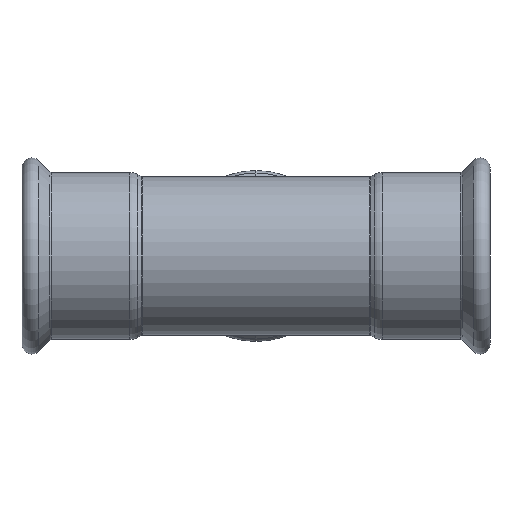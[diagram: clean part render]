
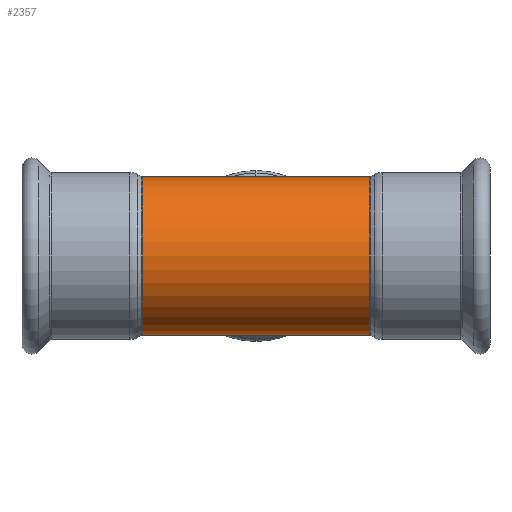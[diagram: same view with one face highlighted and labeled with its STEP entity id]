
A CAD part, front view. The second image highlights one B-rep face of the part: STEP entity #2357.
In plain terms, the highlighted cylindrical face has radius 43.95 mm (diameter 87.9 mm), a partial arc.
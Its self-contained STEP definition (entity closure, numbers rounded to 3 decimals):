
#8 = ORIENTED_EDGE ( 'NONE', *, *, #3311, .T. ) ;
#28 = ORIENTED_EDGE ( 'NONE', *, *, #3982, .F. ) ;
#76 = EDGE_CURVE ( 'NONE', #171, #617, #3625, .T. ) ;
#127 = CIRCLE ( 'NONE', #1808, 43.95 ) ;
#171 = VERTEX_POINT ( 'NONE', #3905 ) ;
#242 = CARTESIAN_POINT ( 'NONE',  ( 27.146, 0., -43.95 ) ) ;
#285 = EDGE_LOOP ( 'NONE', ( #28, #8, #2561, #2039 ) ) ;
#543 = DIRECTION ( 'NONE',  ( 0., 0., 1. ) ) ;
#617 = VERTEX_POINT ( 'NONE', #3769 ) ;
#683 = DIRECTION ( 'NONE',  ( 0., 0., 1. ) ) ;
#820 = AXIS2_PLACEMENT_3D ( 'NONE', #4251, #3928, #3571 ) ;
#1005 = CARTESIAN_POINT ( 'NONE',  ( 63.056, 0., 43.95 ) ) ;
#1100 = VECTOR ( 'NONE', #2980, 1000. ) ;
#1168 = CARTESIAN_POINT ( 'NONE',  ( 63.056, 0., -43.95 ) ) ;
#1184 = VECTOR ( 'NONE', #4008, 1000. ) ;
#1230 = VERTEX_POINT ( 'NONE', #1005 ) ;
#1480 = LINE ( 'NONE', #242, #1184 ) ;
#1792 = FACE_OUTER_BOUND ( 'NONE', #285, .T. ) ;
#1808 = AXIS2_PLACEMENT_3D ( 'NONE', #3803, #3494, #543 ) ;
#2039 = ORIENTED_EDGE ( 'NONE', *, *, #76, .F. ) ;
#2238 = AXIS2_PLACEMENT_3D ( 'NONE', #2390, #2756, #683 ) ;
#2357 = ADVANCED_FACE ( 'NONE', ( #1792 ), #3184, .T. ) ;
#2390 = CARTESIAN_POINT ( 'NONE',  ( 27.146, 0., 0. ) ) ;
#2474 = EDGE_CURVE ( 'NONE', #1230, #617, #2691, .T. ) ;
#2561 = ORIENTED_EDGE ( 'NONE', *, *, #2474, .T. ) ;
#2691 = LINE ( 'NONE', #3687, #1100 ) ;
#2756 = DIRECTION ( 'NONE',  ( -1., 0., 0. ) ) ;
#2980 = DIRECTION ( 'NONE',  ( -1., 0., 0. ) ) ;
#3184 = CYLINDRICAL_SURFACE ( 'NONE', #2238, 43.95 ) ;
#3311 = EDGE_CURVE ( 'NONE', #4345, #1230, #127, .T. ) ;
#3494 = DIRECTION ( 'NONE',  ( -1., 0., 0. ) ) ;
#3571 = DIRECTION ( 'NONE',  ( 0., 0., 1. ) ) ;
#3625 = CIRCLE ( 'NONE', #820, 43.95 ) ;
#3687 = CARTESIAN_POINT ( 'NONE',  ( 27.146, 0., 43.95 ) ) ;
#3769 = CARTESIAN_POINT ( 'NONE',  ( -63.056, 0., 43.95 ) ) ;
#3803 = CARTESIAN_POINT ( 'NONE',  ( 63.056, 0., 0. ) ) ;
#3905 = CARTESIAN_POINT ( 'NONE',  ( -63.056, 0., -43.95 ) ) ;
#3928 = DIRECTION ( 'NONE',  ( -1., 0., 0. ) ) ;
#3982 = EDGE_CURVE ( 'NONE', #4345, #171, #1480, .T. ) ;
#4008 = DIRECTION ( 'NONE',  ( -1., 0., 0. ) ) ;
#4251 = CARTESIAN_POINT ( 'NONE',  ( -63.056, 0., 0. ) ) ;
#4345 = VERTEX_POINT ( 'NONE', #1168 ) ;
